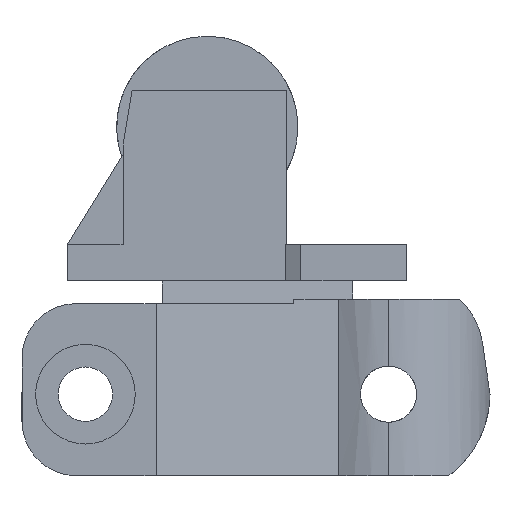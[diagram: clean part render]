
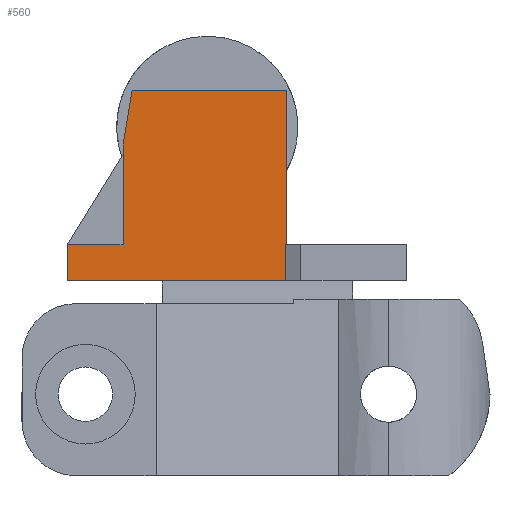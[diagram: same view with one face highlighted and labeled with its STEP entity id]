
A CAD part, left-side view. The second image highlights one B-rep face of the part: STEP entity #560.
In plain terms, the highlighted planar face has unit normal (-1, 0, 0).
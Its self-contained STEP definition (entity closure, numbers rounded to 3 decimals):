
#4 = EDGE_CURVE ( 'NONE', #400, #1632, #91, .T. ) ;
#26 = VECTOR ( 'NONE', #1425, 1000. ) ;
#76 = CARTESIAN_POINT ( 'NONE',  ( -83., 17.427, 38.5 ) ) ;
#82 = CARTESIAN_POINT ( 'NONE',  ( -83., 17.427, 42.5 ) ) ;
#91 = LINE ( 'NONE', #466, #3100 ) ;
#126 = ORIENTED_EDGE ( 'NONE', *, *, #1729, .T. ) ;
#246 = ORIENTED_EDGE ( 'NONE', *, *, #2419, .T. ) ;
#400 = VERTEX_POINT ( 'NONE', #4507 ) ;
#466 = CARTESIAN_POINT ( 'NONE',  ( -83., 17.427, 42.5 ) ) ;
#471 = ORIENTED_EDGE ( 'NONE', *, *, #3172, .F. ) ;
#524 = LINE ( 'NONE', #82, #1738 ) ;
#537 = DIRECTION ( 'NONE',  ( 0., 0.164, -0.986 ) ) ;
#544 = EDGE_CURVE ( 'NONE', #4067, #1249, #2479, .T. ) ;
#560 = ADVANCED_FACE ( 'NONE', ( #1183 ), #4291, .T. ) ;
#791 = LINE ( 'NONE', #3741, #2190 ) ;
#792 = CARTESIAN_POINT ( 'NONE',  ( -83., 35.35, 38.5 ) ) ;
#796 = VECTOR ( 'NONE', #3300, 1000. ) ;
#1108 = ORIENTED_EDGE ( 'NONE', *, *, #1819, .T. ) ;
#1183 = FACE_OUTER_BOUND ( 'NONE', #2691, .T. ) ;
#1199 = VECTOR ( 'NONE', #1733, 1000. ) ;
#1207 = ORIENTED_EDGE ( 'NONE', *, *, #4, .T. ) ;
#1249 = VERTEX_POINT ( 'NONE', #76 ) ;
#1283 = ORIENTED_EDGE ( 'NONE', *, *, #2652, .T. ) ;
#1392 = CARTESIAN_POINT ( 'NONE',  ( -83., 20.675, 38.5 ) ) ;
#1417 = CARTESIAN_POINT ( 'NONE',  ( -83., 17.427, 38.5 ) ) ;
#1425 = DIRECTION ( 'NONE',  ( 0., -1., 0. ) ) ;
#1581 = CARTESIAN_POINT ( 'NONE',  ( -83., 17.35, 38.5 ) ) ;
#1632 = VERTEX_POINT ( 'NONE', #3295 ) ;
#1729 = EDGE_CURVE ( 'NONE', #2245, #1786, #524, .T. ) ;
#1733 = DIRECTION ( 'NONE',  ( 0., 0., -1. ) ) ;
#1738 = VECTOR ( 'NONE', #4012, 1000. ) ;
#1753 = DIRECTION ( 'NONE',  ( 0., 0., 1. ) ) ;
#1786 = VERTEX_POINT ( 'NONE', #2355 ) ;
#1819 = EDGE_CURVE ( 'NONE', #1979, #2082, #3975, .T. ) ;
#1908 = ORIENTED_EDGE ( 'NONE', *, *, #2732, .T. ) ;
#1911 = AXIS2_PLACEMENT_3D ( 'NONE', #3951, #3910, #1753 ) ;
#1961 = DIRECTION ( 'NONE',  ( 0., 0., 1. ) ) ;
#1966 = EDGE_CURVE ( 'NONE', #400, #1249, #3049, .T. ) ;
#1979 = VERTEX_POINT ( 'NONE', #4573 ) ;
#2082 = VERTEX_POINT ( 'NONE', #4411 ) ;
#2190 = VECTOR ( 'NONE', #1961, 1000. ) ;
#2245 = VERTEX_POINT ( 'NONE', #3735 ) ;
#2261 = DIRECTION ( 'NONE',  ( 0., 0., 1. ) ) ;
#2355 = CARTESIAN_POINT ( 'NONE',  ( -83., 41.5, 42.5 ) ) ;
#2419 = EDGE_CURVE ( 'NONE', #3184, #1979, #2587, .T. ) ;
#2479 = LINE ( 'NONE', #1392, #26 ) ;
#2519 = CARTESIAN_POINT ( 'NONE',  ( -83., 41.5, 38.5 ) ) ;
#2587 = LINE ( 'NONE', #3138, #2864 ) ;
#2652 = EDGE_CURVE ( 'NONE', #2082, #2245, #3027, .T. ) ;
#2691 = EDGE_LOOP ( 'NONE', ( #3069, #3870, #1207, #1908, #246, #1108, #1283, #126, #471 ) ) ;
#2732 = EDGE_CURVE ( 'NONE', #1632, #3184, #4261, .T. ) ;
#2776 = DIRECTION ( 'NONE',  ( 0., 1., 0. ) ) ;
#2864 = VECTOR ( 'NONE', #2776, 1000. ) ;
#3021 = VECTOR ( 'NONE', #537, 1000. ) ;
#3027 = LINE ( 'NONE', #792, #796 ) ;
#3049 = LINE ( 'NONE', #1417, #1199 ) ;
#3069 = ORIENTED_EDGE ( 'NONE', *, *, #544, .T. ) ;
#3100 = VECTOR ( 'NONE', #3278, 1000. ) ;
#3138 = CARTESIAN_POINT ( 'NONE',  ( -83., 17.427, 59.5 ) ) ;
#3172 = EDGE_CURVE ( 'NONE', #4067, #1786, #791, .T. ) ;
#3184 = VERTEX_POINT ( 'NONE', #3488 ) ;
#3278 = DIRECTION ( 'NONE',  ( 0., -1., 0. ) ) ;
#3295 = CARTESIAN_POINT ( 'NONE',  ( -83., 17.35, 42.5 ) ) ;
#3300 = DIRECTION ( 'NONE',  ( 0., 0., -1. ) ) ;
#3416 = CARTESIAN_POINT ( 'NONE',  ( -83., 34.35, 59.5 ) ) ;
#3488 = CARTESIAN_POINT ( 'NONE',  ( -83., 17.35, 59.5 ) ) ;
#3735 = CARTESIAN_POINT ( 'NONE',  ( -83., 35.35, 42.5 ) ) ;
#3741 = CARTESIAN_POINT ( 'NONE',  ( -83., 41.5, 38.5 ) ) ;
#3870 = ORIENTED_EDGE ( 'NONE', *, *, #1966, .F. ) ;
#3910 = DIRECTION ( 'NONE',  ( -1., 0., 0. ) ) ;
#3951 = CARTESIAN_POINT ( 'NONE',  ( -83., 17.427, 38.5 ) ) ;
#3975 = LINE ( 'NONE', #3416, #3021 ) ;
#4012 = DIRECTION ( 'NONE',  ( 0., 1., 0. ) ) ;
#4067 = VERTEX_POINT ( 'NONE', #2519 ) ;
#4261 = LINE ( 'NONE', #1581, #4424 ) ;
#4291 = PLANE ( 'NONE',  #1911 ) ;
#4411 = CARTESIAN_POINT ( 'NONE',  ( -83., 35.35, 53.5 ) ) ;
#4424 = VECTOR ( 'NONE', #2261, 1000. ) ;
#4507 = CARTESIAN_POINT ( 'NONE',  ( -83., 17.427, 42.5 ) ) ;
#4573 = CARTESIAN_POINT ( 'NONE',  ( -83., 34.35, 59.5 ) ) ;
